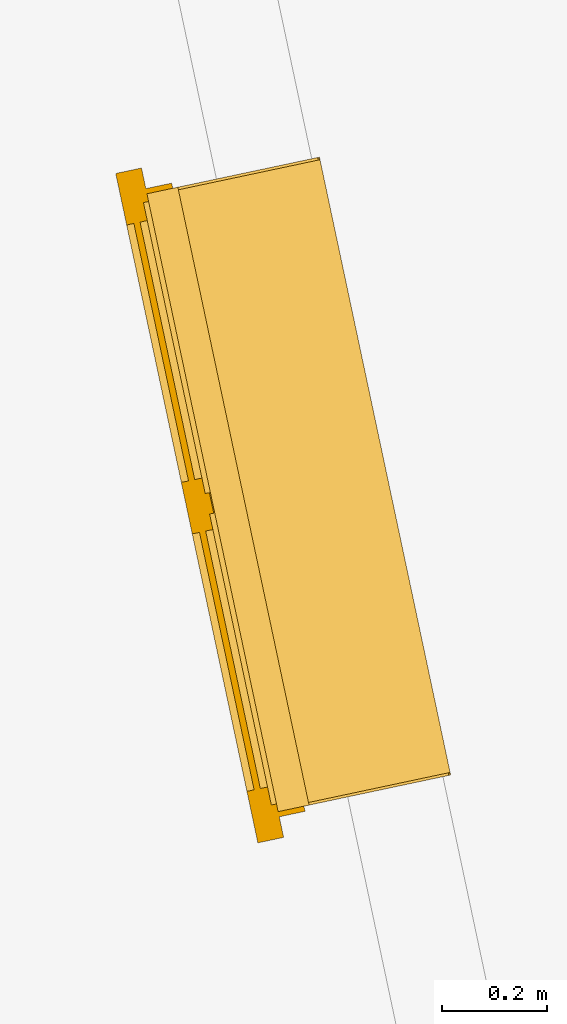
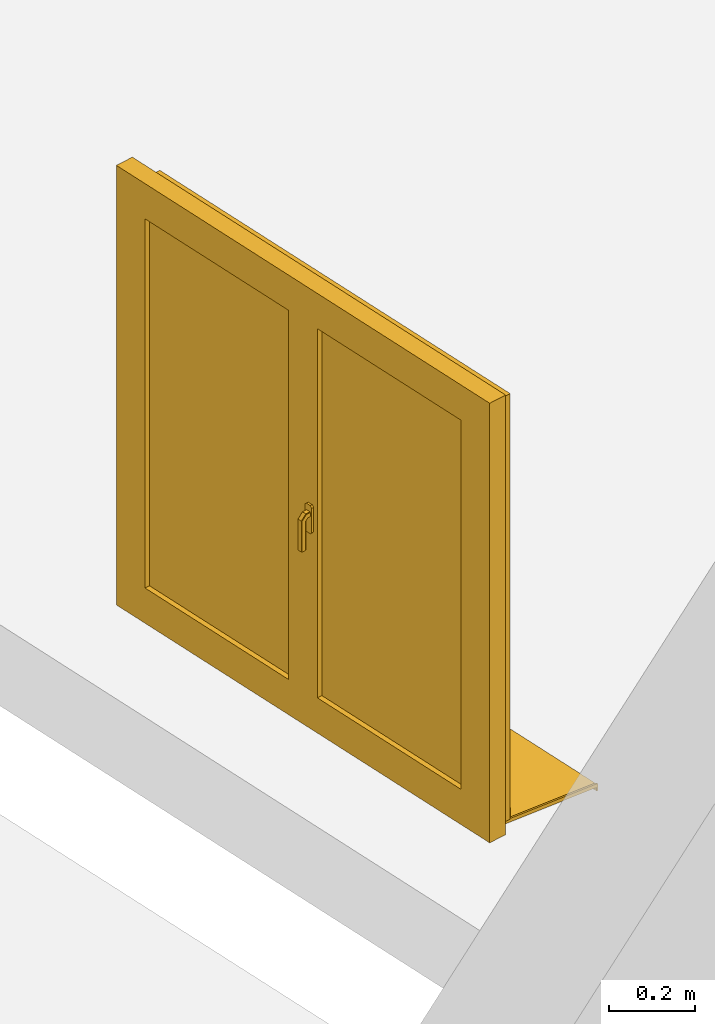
# One storey, part 9 of 10: 1 window.
"""IFC2X3 building model written with IfcOpenShell, lengths in centimetres."""

from ifc_helpers import new_model, entity, si_unit, converted_unit, derived_unit, direction, frame, origin, place, context, subcontext, project, spatial, faceted_brep, source, transform, mapped, material, material_list, type_object, type_shapes, element, save


model = new_model("IFC2X3")

# Units and contexts
model_context = context("Model", 3, precision=0.001, world=origin(), true_north=direction((6.12303176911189e-17, 1.0)))
body_context = subcontext(model_context, "Body", "Model", "MODEL_VIEW")
ifc_project = project(units=[si_unit("LENGTHUNIT", "METRE", prefix="CENTI"), si_unit("AREAUNIT", "SQUARE_METRE"), si_unit("VOLUMEUNIT", "CUBIC_METRE"), converted_unit("PLANEANGLEUNIT", "DEGREE", entity("IfcRatioMeasure", 0.0174532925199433), si_unit("PLANEANGLEUNIT", "RADIAN"), dimensions=[0, 0, 0, 0, 0, 0, 0]), si_unit("MASSUNIT", "GRAM", prefix="KILO"), derived_unit("MASSDENSITYUNIT", [(si_unit("MASSUNIT", "GRAM", prefix="KILO"), 1), (si_unit("LENGTHUNIT", "METRE"), -3)]), derived_unit("IONCONCENTRATIONUNIT", [(si_unit("MASSUNIT", "GRAM", prefix="KILO"), 1), (si_unit("LENGTHUNIT", "METRE"), -3)]), derived_unit("MOMENTOFINERTIAUNIT", [(si_unit("LENGTHUNIT", "METRE"), 4)]), si_unit("TIMEUNIT", "SECOND"), si_unit("FREQUENCYUNIT", "HERTZ"), si_unit("THERMODYNAMICTEMPERATUREUNIT", "DEGREE_CELSIUS"), derived_unit("THERMALTRANSMITTANCEUNIT", [(si_unit("MASSUNIT", "GRAM", prefix="KILO"), 1), (si_unit("THERMODYNAMICTEMPERATUREUNIT", "KELVIN"), -1), (si_unit("TIMEUNIT", "SECOND"), -3)]), derived_unit("THERMALCONDUCTANCEUNIT", [(si_unit("MASSUNIT", "GRAM", prefix="KILO"), 1), (si_unit("THERMODYNAMICTEMPERATUREUNIT", "KELVIN"), -1), (si_unit("TIMEUNIT", "SECOND"), -3), (si_unit("LENGTHUNIT", "METRE"), 1)]), derived_unit("VOLUMETRICFLOWRATEUNIT", [(si_unit("LENGTHUNIT", "METRE"), 3), (si_unit("TIMEUNIT", "SECOND"), -1)]), derived_unit("MASSFLOWRATEUNIT", [(si_unit("MASSUNIT", "GRAM", prefix="KILO"), 1), (si_unit("TIMEUNIT", "SECOND"), -1)]), derived_unit("ROTATIONALFREQUENCYUNIT", [(si_unit("TIMEUNIT", "SECOND"), -1)]), si_unit("ELECTRICCURRENTUNIT", "AMPERE"), si_unit("ELECTRICVOLTAGEUNIT", "VOLT"), si_unit("POWERUNIT", "WATT"), si_unit("FORCEUNIT", "NEWTON", prefix="KILO"), si_unit("ILLUMINANCEUNIT", "LUX"), si_unit("LUMINOUSFLUXUNIT", "LUMEN"), si_unit("LUMINOUSINTENSITYUNIT", "CANDELA"), derived_unit("USERDEFINED", [(si_unit("MASSUNIT", "GRAM", prefix="KILO"), -1), (si_unit("LENGTHUNIT", "METRE"), -2), (si_unit("TIMEUNIT", "SECOND"), 3), (si_unit("LUMINOUSFLUXUNIT", "LUMEN"), 1)]), derived_unit("USERDEFINED", [(si_unit("MASSUNIT", "GRAM", prefix="KILO"), 1), (si_unit("TIMEUNIT", "SECOND"), -3), (si_unit("LENGTHUNIT", "METRE"), 3), (si_unit("ELECTRICCURRENTUNIT", "AMPERE"), -2)]), derived_unit("SOUNDPOWERUNIT", [(si_unit("MASSUNIT", "GRAM", prefix="KILO"), 1), (si_unit("TIMEUNIT", "SECOND"), -3), (si_unit("LENGTHUNIT", "METRE"), 2)]), derived_unit("SOUNDPRESSUREUNIT", [(si_unit("MASSUNIT", "GRAM", prefix="KILO"), 1), (si_unit("LENGTHUNIT", "METRE"), -1), (si_unit("TIMEUNIT", "SECOND"), -2)]), derived_unit("LINEARVELOCITYUNIT", [(si_unit("LENGTHUNIT", "METRE"), 1), (si_unit("TIMEUNIT", "SECOND"), -1)]), si_unit("PRESSUREUNIT", "PASCAL"), derived_unit("USERDEFINED", [(si_unit("MASSUNIT", "GRAM", prefix="KILO"), 1), (si_unit("LENGTHUNIT", "METRE"), -2), (si_unit("TIMEUNIT", "SECOND"), -2)]), derived_unit("LINEARFORCEUNIT", [(si_unit("MASSUNIT", "GRAM", prefix="KILO"), 1), (si_unit("TIMEUNIT", "SECOND"), -2)]), derived_unit("PLANARFORCEUNIT", [(si_unit("MASSUNIT", "GRAM", prefix="KILO"), 1), (si_unit("LENGTHUNIT", "METRE"), -1), (si_unit("TIMEUNIT", "SECOND"), -2)]), derived_unit("SPECIFICHEATCAPACITYUNIT", [(si_unit("THERMODYNAMICTEMPERATUREUNIT", "KELVIN"), -1), (si_unit("LENGTHUNIT", "METRE"), 2), (si_unit("TIMEUNIT", "SECOND"), -2)]), derived_unit("HEATINGVALUEUNIT", [(si_unit("LENGTHUNIT", "METRE"), 2), (si_unit("TIMEUNIT", "SECOND"), -2)]), derived_unit("VAPORPERMEABILITYUNIT", [(si_unit("LENGTHUNIT", "METRE"), -1), (si_unit("TIMEUNIT", "SECOND"), 1)]), derived_unit("DYNAMICVISCOSITYUNIT", [(si_unit("MASSUNIT", "GRAM", prefix="KILO"), 1), (si_unit("TIMEUNIT", "SECOND"), -1), (si_unit("LENGTHUNIT", "METRE"), -1)]), derived_unit("THERMALEXPANSIONCOEFFICIENTUNIT", [(si_unit("THERMODYNAMICTEMPERATUREUNIT", "KELVIN"), -1)]), derived_unit("MODULUSOFELASTICITYUNIT", [(si_unit("MASSUNIT", "GRAM", prefix="KILO"), 1), (si_unit("LENGTHUNIT", "METRE"), -1), (si_unit("TIMEUNIT", "SECOND"), -2)]), derived_unit("ISOTHERMALMOISTURECAPACITYUNIT", [(si_unit("LENGTHUNIT", "METRE"), 3), (si_unit("MASSUNIT", "GRAM", prefix="KILO"), -1)]), derived_unit("MOISTUREDIFFUSIVITYUNIT", [(si_unit("TIMEUNIT", "SECOND"), -1), (si_unit("LENGTHUNIT", "METRE"), 2)])], contexts=[model_context])

# Site, building, storey
site_placement = place(None, frame((14083.8920177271, -6853.25409548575, 6900.0), z_axis=(0.0, 0.0, 1.0), x_axis=(0.978188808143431, 0.207717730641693, 0.0)))
site = spatial("IfcSite", under=ifc_project, at=site_placement, Name="Surface", CompositionType="ELEMENT")
building_placement = place(site_placement, origin())
building = spatial("IfcBuilding", under=site, at=building_placement, CompositionType="ELEMENT")
storey_placement = place(building_placement, frame((0.0, 0.0, 289.0)))
storey = spatial("IfcBuildingStorey", under=building, at=storey_placement, Name="_R+1", CompositionType="ELEMENT", Elevation=289.0)

# Window
ifc_material_1 = material(Name="Fenêtre - Poignée")
ifc_material_2 = material(Name="Fenêtre - Appui")
ifc_material_3 = material(Name="Fenêtre - Cadre")
ifc_material_4 = material(Name="Fenêtre - Vitrage")
ifc_material_list = material_list([ifc_material_1, ifc_material_2, ifc_material_3, ifc_material_4])
window_style = type_object("IfcWindowStyle", Name="2 Vantaux - Droits:120x120", ConstructionType="NOTDEFINED", OperationType="DOUBLE_PANEL_VERTICAL", ParameterTakesPrecedence=False, Sizeable=False, material=ifc_material_list)
shared_shape = source(origin(), body_context, "Body", "Brep", [
    faceted_brep([(68.0646009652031, -69.100000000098, 70.0621991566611), (68.2033929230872, -69.100000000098, 69.9234071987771), (68.2033929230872, -69.100000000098, 68.7920363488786), (68.0667698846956, -69.100000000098, 68.655413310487), (66.9332301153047, -69.100000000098, 68.655413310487), (66.7966070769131, -69.100000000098, 68.7920363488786), (66.7966070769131, -69.100000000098, 69.9234071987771), (66.9353990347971, -69.100000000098, 70.0621991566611), (68.0646009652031, -70.3913548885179, 70.0621991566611), (68.2033929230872, -70.333865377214, 69.9234071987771), (68.2033929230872, -71.664600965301, 68.5926716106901), (68.2033929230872, -71.664600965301, 59.8588062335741), (68.2033929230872, -70.5332301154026, 59.8588062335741), (68.2033929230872, -70.5332301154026, 68.1240424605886), (68.2033929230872, -69.8652362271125, 68.7920363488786), (68.0667698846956, -69.8086451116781, 68.655413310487), (66.9332301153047, -69.8086451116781, 68.655413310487), (66.7966070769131, -69.8652362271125, 68.7920363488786), (66.7966070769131, -70.5332301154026, 68.1240424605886), (66.7966070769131, -70.5332301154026, 59.8588062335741), (66.7966070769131, -71.664600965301, 59.8588062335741), (66.7966070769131, -71.664600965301, 68.5926716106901), (66.7966070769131, -70.333865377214, 69.9234071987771), (66.9353990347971, -70.3913548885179, 70.0621991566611), (68.0646009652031, -71.8033929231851, 68.650161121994), (68.0667698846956, -70.396607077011, 68.0674513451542), (66.9332301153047, -70.396607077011, 68.0674513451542), (66.9353990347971, -71.803392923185, 68.650161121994), (68.0646009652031, -71.8033929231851, 59.8588062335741), (66.9353990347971, -71.8033929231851, 59.8588062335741), (66.9332301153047, -70.396607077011, 59.8588062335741), (68.0667698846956, -70.396607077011, 59.8588062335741)], [[[0, 1, 2, 3, 4, 5, 6, 7]], [[1, 0, 8, 9]], [[2, 1, 9, 10, 11, 12, 13, 14]], [[3, 2, 14, 15]], [[4, 3, 15, 16]], [[5, 4, 16, 17]], [[6, 5, 17, 18, 19, 20, 21, 22]], [[7, 6, 22, 23]], [[0, 7, 23, 8]], [[9, 8, 24, 10]], [[15, 14, 13, 25]], [[16, 15, 25, 26]], [[17, 16, 26, 18]], [[23, 22, 21, 27]], [[8, 23, 27, 24]], [[28, 29, 20, 19, 30, 31, 12, 11]], [[10, 24, 28, 11]], [[25, 13, 12, 31]], [[26, 25, 31, 30]], [[18, 26, 30, 19]], [[27, 21, 20, 29]], [[24, 27, 29, 28]]]),
    faceted_brep([(68.2000000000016, -69.1000000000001, 71.8588062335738), (66.8, -69.1000000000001, 71.8588062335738), (66.3, -69.1000000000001, 71.3588062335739), (66.3, -69.1000000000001, 64.3588062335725), (66.7999999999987, -69.1000000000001, 63.8588062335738), (68.2000000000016, -69.1000000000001, 63.8588062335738), (68.7000000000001, -69.1000000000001, 64.3588062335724), (68.7000000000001, -69.1000000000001, 71.3588062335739), (68.2000000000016, -68.5000000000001, 71.8588062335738), (68.7000000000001, -68.5000000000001, 71.3588062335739), (68.7000000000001, -68.5000000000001, 64.3588062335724), (68.2000000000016, -68.5000000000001, 63.8588062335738), (66.7999999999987, -68.5000000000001, 63.8588062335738), (66.3, -68.5000000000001, 64.3588062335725), (66.3, -68.5000000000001, 71.3588062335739), (66.8, -68.5000000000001, 71.8588062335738)], [[[0, 1, 2, 3, 4, 5, 6, 7]], [[8, 9, 10, 11, 12, 13, 14, 15]], [[1, 0, 8, 15]], [[2, 1, 15, 14]], [[3, 2, 14, 13]], [[4, 3, 13, 12]], [[5, 4, 12, 11]], [[6, 5, 11, 10]], [[7, 6, 10, 9]], [[0, 7, 9, 8]]]),
    faceted_brep([(125.0, -30.0, 3.67864823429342), (125.0, -60.0, 6.83177529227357), (125.0, -60.0, 7.85880623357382), (125.0, -60.4999999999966, 7.85880623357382), (125.0, -60.4999999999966, 6.35880623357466), (125.0, -30.4999999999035, 3.2056791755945), (125.0, -30.4999999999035, 2.17562870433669), (125.0, -30.0, 2.12307658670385), (5.0, -30.0, 3.67864823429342), (5.0, -30.0, 2.12307658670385), (5.0, -30.4999999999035, 2.17562870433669), (5.0, -30.4999999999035, 3.2056791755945), (5.0, -60.4999999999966, 6.35880623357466), (5.0, -60.4999999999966, 7.85880623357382), (5.0, -60.0, 7.85880623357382), (5.0, -60.0, 6.83177529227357)], [[[0, 1, 2, 3, 4, 5, 6, 7]], [[8, 9, 10, 11, 12, 13, 14, 15]], [[1, 0, 8, 15]], [[2, 1, 15, 14]], [[3, 2, 14, 13]], [[4, 3, 13, 12]], [[5, 4, 12, 11]], [[6, 5, 11, 10]], [[7, 6, 10, 9]], [[0, 7, 9, 8]]]),
    faceted_brep([(5.0, -30.0, 3.82124075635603), (5.0, -30.0, 3.67864823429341), (5.0, -60.0, 6.83177529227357), (5.0, -60.0, 7.33452943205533), (5.0, -30.3581886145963, 4.21904951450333), (5.0, -30.1027420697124, 4.08889299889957), (5.49999999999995, -60.0, 7.33452943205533), (5.49999999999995, -60.0, 6.83177529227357), (5.5, -30.0, 3.67864823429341), (5.5, -30.0, 3.82124075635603), (5.5, -30.1027420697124, 4.08889299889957), (5.5, -30.3581886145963, 4.21904951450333)], [[[0, 1, 2, 3, 4, 5]], [[6, 7, 8, 9, 10, 11]], [[2, 1, 8, 7]], [[3, 2, 7, 6]], [[4, 3, 6, 11]], [[4, 11, 10, 5]], [[10, 9, 0, 5]], [[1, 0, 9, 8]]]),
    faceted_brep([(124.5, -30.0, 3.82124075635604), (124.5, -30.0, 3.67864823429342), (124.5, -60.0, 6.83177529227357), (124.5, -60.0, 7.33452943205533), (124.5, -30.3581886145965, 4.21904951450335), (124.5, -30.1027420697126, 4.08889299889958), (125.0, -60.0, 7.33452943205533), (125.0, -60.0, 6.83177529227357), (125.0, -30.0, 3.67864823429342), (125.0, -30.0, 3.82124075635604), (125.0, -30.1027420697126, 4.08889299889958), (125.0, -30.3581886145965, 4.21904951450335)], [[[0, 1, 2, 3, 4, 5]], [[6, 7, 8, 9, 10, 11]], [[2, 1, 8, 7]], [[3, 2, 7, 6]], [[4, 3, 6, 11]], [[4, 11, 10, 5]], [[10, 9, 0, 5]], [[1, 0, 9, 8]]]),
    faceted_brep([(65.0, -64.4999999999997, 127.858806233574), (65.0, -68.499999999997, 127.858806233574), (65.0, -68.499999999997, 12.8588062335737), (65.0, -64.4999999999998, 12.8588062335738), (5.0, -68.4999999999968, 12.8588062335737), (5.0, -64.4999999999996, 12.8588062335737), (5.0, -68.4999999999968, 127.858806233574), (10.0, -68.4999999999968, 17.8588062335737), (10.0, -68.4999999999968, 122.858806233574), (60.0, -68.499999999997, 122.858806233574), (60.0, -68.499999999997, 17.8588062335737), (5.0, -64.4999999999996, 127.858806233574), (60.0, -64.4999999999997, 17.8588062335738), (60.0, -64.4999999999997, 122.858806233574), (10.0, -64.4999999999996, 122.858806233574), (10.0, -64.4999999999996, 17.8588062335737)], [[[0, 1, 2, 3]], [[3, 2, 4, 5]], [[2, 1, 6, 4], [7, 8, 9, 10]], [[5, 4, 6, 11]], [[5, 11, 0, 3], [12, 13, 14, 15]], [[9, 13, 12, 10]], [[10, 12, 15, 7]], [[7, 15, 14, 8]], [[11, 6, 1, 0]], [[8, 14, 13, 9]]]),
    faceted_brep([(70.0, -65.9000000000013, 17.8588062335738), (70.0, -65.9000000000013, 122.858806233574), (120.0, -65.9000000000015, 122.858806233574), (120.0, -65.9000000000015, 17.8588062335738), (70.0, -67.1000000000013, 17.8588062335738), (70.0, -67.1000000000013, 122.858806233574), (120.0, -67.1000000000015, 122.858806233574), (120.0, -67.1000000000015, 17.8588062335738)], [[[0, 1, 2, 3]], [[1, 0, 4, 5]], [[3, 2, 6, 7]], [[0, 3, 7, 4]], [[2, 1, 5, 6]], [[4, 7, 6, 5]]]),
    faceted_brep([(60.0, -65.9000000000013, 17.8588062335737), (60.0, -65.9000000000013, 122.858806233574), (60.0, -67.1000000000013, 122.858806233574), (60.0, -67.1000000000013, 17.8588062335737), (10.0, -65.9000000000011, 17.8588062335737), (10.0, -67.1000000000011, 17.8588062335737), (10.0, -65.9000000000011, 122.858806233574), (10.0, -67.1000000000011, 122.858806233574)], [[[0, 1, 2, 3]], [[4, 0, 3, 5]], [[6, 4, 5, 7]], [[7, 5, 3, 2]], [[1, 6, 7, 2]], [[6, 1, 0, 4]]]),
    faceted_brep([(70.0, -64.5000000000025, 122.858806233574), (70.0, -68.5000000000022, 122.858806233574), (70.0, -68.5000000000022, 17.8588062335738), (70.0, -64.5000000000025, 17.8588062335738), (120.0, -68.5000000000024, 17.8588062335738), (120.0, -64.5000000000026, 17.8588062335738), (120.0, -68.5000000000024, 122.858806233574), (125.0, -68.5000000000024, 12.8588062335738), (125.0, -68.5000000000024, 127.858806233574), (65.0, -68.5000000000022, 127.858806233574), (65.0, -68.5000000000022, 12.8588062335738), (120.0, -64.5000000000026, 122.858806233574), (65.0, -64.5000000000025, 12.8588062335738), (65.0, -64.5000000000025, 127.858806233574), (125.0, -64.5000000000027, 127.858806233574), (125.0, -64.5000000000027, 12.8588062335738)], [[[0, 1, 2, 3]], [[3, 2, 4, 5]], [[2, 1, 6, 4], [7, 8, 9, 10]], [[5, 4, 6, 11]], [[5, 11, 0, 3], [12, 13, 14, 15]], [[9, 13, 12, 10]], [[10, 12, 15, 7]], [[7, 15, 14, 8]], [[11, 6, 1, 0]], [[8, 14, 13, 9]]], outer=[[True], [True], [False, True], [True], [False, True], [True], [True], [True], [True], [True]]),
    faceted_brep([(0.0, -68.5000000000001, 7.85880623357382), (0.0, -63.5000000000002, 7.85880623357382), (5.0, -63.5000000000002, 7.85880623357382), (5.0, -58.5000000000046, 7.85880623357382), (125.0, -58.5000000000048, 7.85880623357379), (125.0, -63.5000000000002, 7.85880623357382), (130.0, -63.5000000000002, 7.85880623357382), (130.0, -68.5000000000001, 7.85880623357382), (0.0, -68.5000000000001, 132.858806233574), (0.0, -63.5000000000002, 132.858806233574), (130.0, -63.5000000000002, 132.858806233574), (125.0, -63.5000000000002, 11.7964204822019), (5.0, -63.5000000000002, 11.7964204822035), (6.49999999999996, -63.5000000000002, 126.358806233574), (6.49999999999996, -63.5000000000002, 14.3588062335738), (123.5, -63.5000000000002, 14.3588062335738), (123.5, -63.5000000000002, 126.358806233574), (5.0, -57.5000000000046, 10.1887253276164), (5.0, -57.5000000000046, 7.35880623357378), (5.0, -58.5000000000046, 7.35880623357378), (125.0, -58.5000000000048, 7.35880623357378), (125.0, -57.5000000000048, 7.35880623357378), (125.0, -57.5000000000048, 10.1887253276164), (130.0, -68.5000000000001, 132.858806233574), (125.0, -68.5000000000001, 127.858806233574), (125.0, -68.5000000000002, 12.8588062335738), (5.0, -68.5000000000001, 12.8588062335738), (5.0, -68.5000000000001, 127.858806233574), (6.49999999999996, -64.5000000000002, 126.358806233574), (6.49999999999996, -64.5000000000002, 14.3588062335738), (123.5, -64.5000000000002, 14.3588062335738), (123.5, -64.5000000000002, 126.358806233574), (125.0, -64.5000000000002, 127.858806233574), (5.0, -64.5000000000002, 127.858806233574), (5.0, -64.5000000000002, 12.8588062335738), (125.0, -64.5000000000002, 12.8588062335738)], [[[0, 1, 2, 3, 4, 5, 6, 7]], [[1, 0, 8, 9]], [[1, 9, 10, 6, 5, 11, 12, 2], [13, 14, 15, 16]], [[12, 17, 18, 19, 3, 2]], [[3, 19, 20, 4]], [[4, 20, 21, 22, 11, 5]], [[6, 10, 23, 7]], [[0, 7, 23, 8], [24, 25, 26, 27]], [[13, 28, 29, 14]], [[29, 30, 15, 14]], [[31, 16, 15, 30]], [[17, 12, 11, 22]], [[32, 33, 34, 35], [28, 31, 30, 29]], [[34, 33, 27, 26]], [[26, 25, 35, 34]], [[24, 32, 35, 25]], [[18, 17, 22, 21]], [[19, 18, 21, 20]], [[13, 16, 31, 28]], [[33, 32, 24, 27]], [[10, 9, 8, 23]]]),
    faceted_brep([(5.0, -58.5, 7.85880623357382), (5.0, -63.5000000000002, 7.85880623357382), (4.0, -63.5000000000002, 7.85880623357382), (4.0, -58.5, 7.85880623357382), (5.0, -58.5, 127.858806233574), (5.0, -63.5000000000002, 127.858806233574), (125.0, -63.5000000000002, 127.858806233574), (125.0, -63.5000000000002, 7.85880623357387), (126.0, -63.5000000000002, 7.85880623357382), (126.0, -63.5000000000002, 128.858806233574), (4.0, -63.5000000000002, 128.858806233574), (4.0, -58.5, 128.858806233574), (126.0, -58.5, 128.858806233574), (126.0, -58.5, 7.85880623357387), (125.0, -58.5, 7.85880623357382), (125.0, -58.5, 127.858806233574)], [[[0, 1, 2, 3]], [[1, 0, 4, 5]], [[2, 1, 5, 6, 7, 8, 9, 10]], [[3, 2, 10, 11]], [[0, 3, 11, 12, 13, 14, 15, 4]], [[6, 15, 14, 7]], [[14, 13, 8, 7]], [[12, 9, 8, 13]], [[5, 4, 15, 6]], [[11, 10, 9, 12]]]),
    faceted_brep([(67.0, -63.7000000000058, 126.358806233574), (63.0, -63.7000000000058, 126.358806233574), (63.0, -64.5000000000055, 126.358806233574), (67.0, -64.5000000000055, 126.358806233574), (67.0, -63.7000000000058, 14.3588062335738), (67.0, -64.5000000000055, 14.3588062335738), (63.0, -64.5000000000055, 14.3588062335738), (63.0, -63.7000000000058, 14.3588062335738)], [[[0, 1, 2, 3]], [[4, 5, 6, 7]], [[1, 0, 4, 7]], [[2, 1, 7, 6]], [[3, 2, 6, 5]], [[0, 3, 5, 4]]]),
])
type_shapes(window_style, [shared_shape])
window_placement = place(storey_placement, frame((-6221.31321908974, 15176.1724778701, 92.1411937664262), z_axis=(0.0, 0.0, 1.0), x_axis=(0.0, -1.0, 0.0)))
element("IfcWindow", 1, at=window_placement, inside=storey, type_object=window_style, material=ifc_material_list, Name="2 Vantaux - Droits:120x120", ObjectType="2 Vantaux - Droits:120x120", OverallHeight=205.0, OverallWidth=130.0, context=body_context, shape_type="MappedRepresentation", body=[
    mapped(shared_shape, transform((0.0, 0.0, 0.0), scale=1.0)),
])

save(model, "model.ifc")
